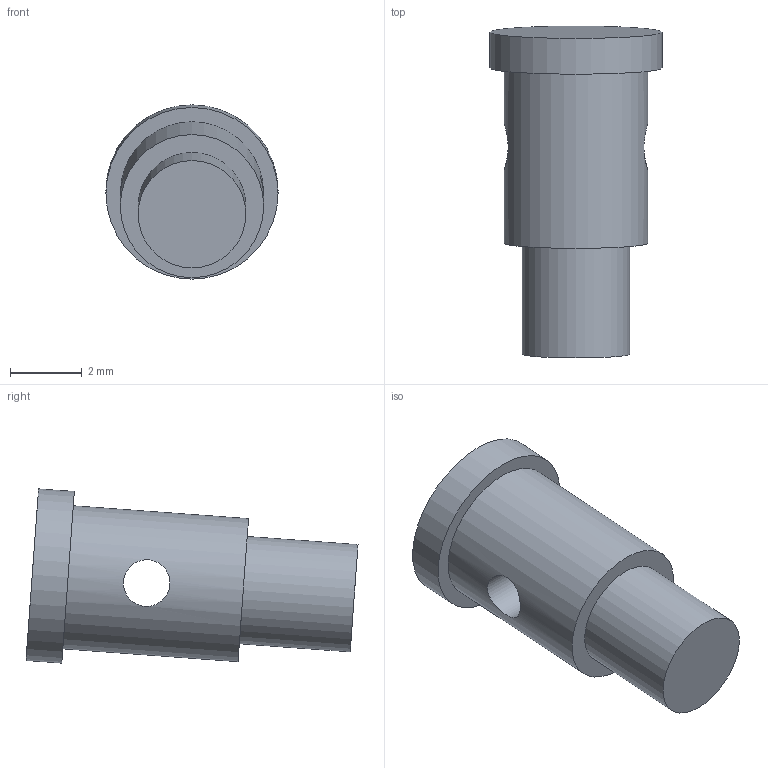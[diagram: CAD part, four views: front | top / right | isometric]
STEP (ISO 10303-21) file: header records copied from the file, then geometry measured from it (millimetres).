
FILE_DESCRIPTION(('Open CASCADE Model'),'2;1');
FILE_NAME('B3_R12_radial_follower_pin','2026-09-28T18:17:14',('Author'), ('Open CASCADE'),'Open CASCADE STEP processor 7.9','build123d', 'Unknown');
FILE_SCHEMA(('AUTOMOTIVE_DESIGN { 1 0 10303 214 1 1 1 1 }'));
Length unit declared in the file: millimetre
Products named in the file (1): B3_R12_radial_follower_pin
Bounding box: 4.8 x 9.26 x 4.86 mm (x, y, z)
Volume: 96.3 mm3; surface area: 155.3 mm2
Topology: 1 solids, 1 shells, 8 faces, 12 edges, 8 vertices
Faces by surface type: cylinder 4, plane 4
Full cylindrical faces by diameter (mm): 1.3 x1, 3 x1, 4 x1, 4.8 x1
Entity records: 645 total; most frequent: CARTESIAN_POINT 347, DIRECTION 54, ORIENTED_EDGE 24, PCURVE 24, DEFINITIONAL_REPRESENTATION 24, LINE 18, VECTOR 18, AXIS2_PLACEMENT_3D 15
